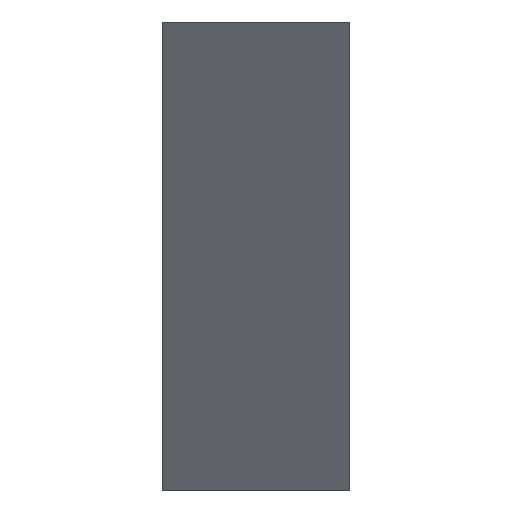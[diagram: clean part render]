
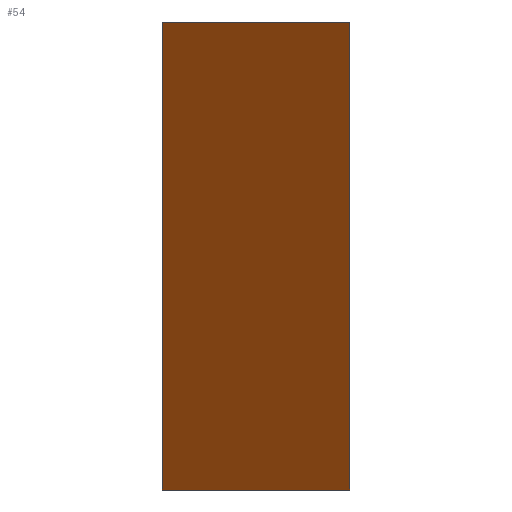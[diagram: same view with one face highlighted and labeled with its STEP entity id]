
A CAD part, left-side view. The second image highlights one B-rep face of the part: STEP entity #54.
In plain terms, the highlighted planar face has unit normal (-0.8, 0, -0.6).
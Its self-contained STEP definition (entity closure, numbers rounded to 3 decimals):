
#54=ADVANCED_FACE('',(#66),#67,.T.);
#66=FACE_OUTER_BOUND('',#83,.T.);
#67=PLANE('',#84);
#83=EDGE_LOOP('',(#115,#116,#117,#118));
#84=AXIS2_PLACEMENT_3D('',#119,#120,#121);
#115=ORIENTED_EDGE('',*,*,#156,.T.);
#116=ORIENTED_EDGE('',*,*,#157,.F.);
#117=ORIENTED_EDGE('',*,*,#158,.T.);
#118=ORIENTED_EDGE('',*,*,#153,.T.);
#119=CARTESIAN_POINT('',(160.235,-1.0,-1.5));
#120=DIRECTION('',(-0.8,0.,-0.6));
#121=DIRECTION('',(0.,1.0,0.));
#153=EDGE_CURVE('',#174,#172,#175,.T.);
#156=EDGE_CURVE('',#172,#179,#180,.T.);
#157=EDGE_CURVE('',#181,#179,#182,.T.);
#158=EDGE_CURVE('',#181,#174,#183,.T.);
#172=VERTEX_POINT('',#199);
#174=VERTEX_POINT('',#202);
#175=LINE('',#203,#204);
#179=VERTEX_POINT('',#210);
#180=LINE('',#211,#212);
#181=VERTEX_POINT('',#213);
#182=LINE('',#214,#215);
#183=LINE('',#216,#217);
#199=CARTESIAN_POINT('',(160.235,1.0,-1.5));
#202=CARTESIAN_POINT('',(160.235,-1.0,-1.5));
#203=CARTESIAN_POINT('',(160.235,-1.0,-1.5));
#204=VECTOR('',#237,0.075);
#210=CARTESIAN_POINT('',(163.985,1.0,-6.5));
#211=CARTESIAN_POINT('',(163.985,1.0,-6.5));
#212=VECTOR('',#240,1.0);
#213=CARTESIAN_POINT('',(163.985,-1.0,-6.5));
#214=CARTESIAN_POINT('',(163.985,-1.0,-6.5));
#215=VECTOR('',#241,0.075);
#216=CARTESIAN_POINT('',(163.985,-1.0,-6.5));
#217=VECTOR('',#242,1.0);
#237=DIRECTION('',(0.,1.0,0.));
#240=DIRECTION('',(0.6,0.,-0.8));
#241=DIRECTION('',(0.,1.0,0.));
#242=DIRECTION('',(-0.6,0.,0.8));
